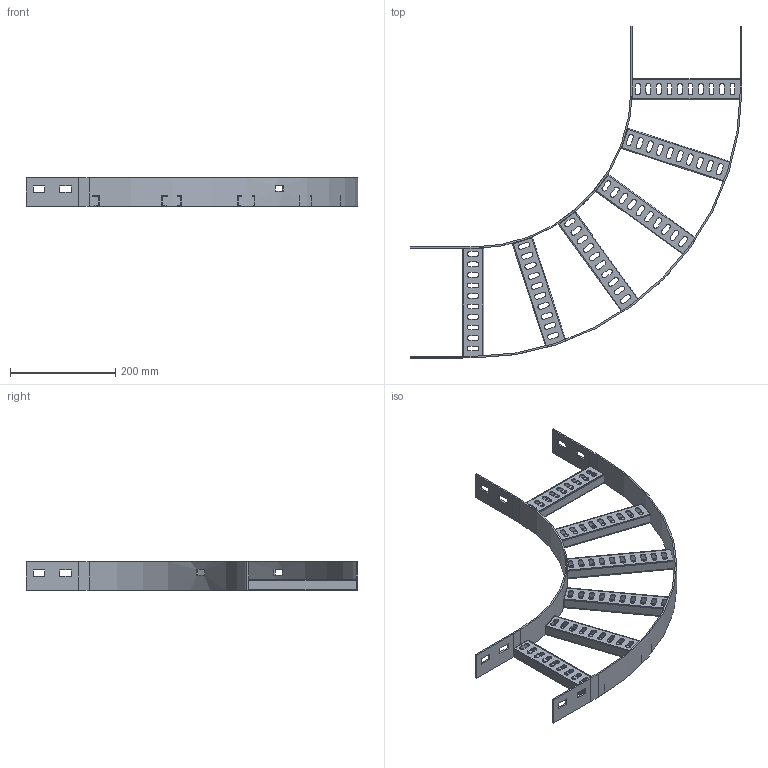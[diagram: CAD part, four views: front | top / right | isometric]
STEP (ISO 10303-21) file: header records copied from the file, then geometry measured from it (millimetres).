
FILE_DESCRIPTION(/* description */ ('','CAx-IF Rec.Pracs.---Representation and Presentation of Product Manufacturing Information (PMI)---4.0---2014-10-13'),/* implementation_level */ '2;1');
FILE_NAME(/* name */ 'Eurostrut_EFB60-200-90-300_Bend 90 for Cable Ladder ECL.step',/* time_stamp */ '2026-09-03T08:37:46+02:00',/* author */ (''),/* organization */ (''),/* preprocessor_version */ 'ST-DEVELOPER v20.1',/* originating_system */ 'Autodesk Revit 2027 27.2.0.39',/* authorisation */ '');
FILE_SCHEMA (('AP242_MANAGED_MODEL_BASED_3D_ENGINEERING_MIM_LF { 1 0 10303 442 2 1 4 }'));
Length unit declared in the file: millimetre
Products named in the file (6): TopLevelAssembly; Sweep; Extrusion; Extrusion_1; Eurostrut_Cable Ladder_Rung_Horizontal Bend_With slots; Eurostrut_Cable Ladder_Accessory End_54-94-142
Assembly tree (8 placements, depth 2):
  TopLevelAssembly
    Sweep
    Extrusion
    Extrusion_1
    Eurostrut_Cable Ladder_Rung_Horizontal Bend_With slots
    Eurostrut_Cable Ladder_Accessory End_54-94-142  x4
Bounding box: 631 x 631 x 54 mm (x, y, z)
Volume: 427455.2 mm3; surface area: 411707.6 mm2
Topology: 16 solids, 16 shells, 448 faces, 1248 edges, 832 vertices
Faces by surface type: plane 300, bspline 120, cylinder 28
Entity records: 16860 total; most frequent: CARTESIAN_POINT 6040, ORIENTED_EDGE 2280, DIRECTION 2044, EDGE_CURVE 1140, LINE 836, VECTOR 836, VERTEX_POINT 760, AXIS2_PLACEMENT_3D 604
